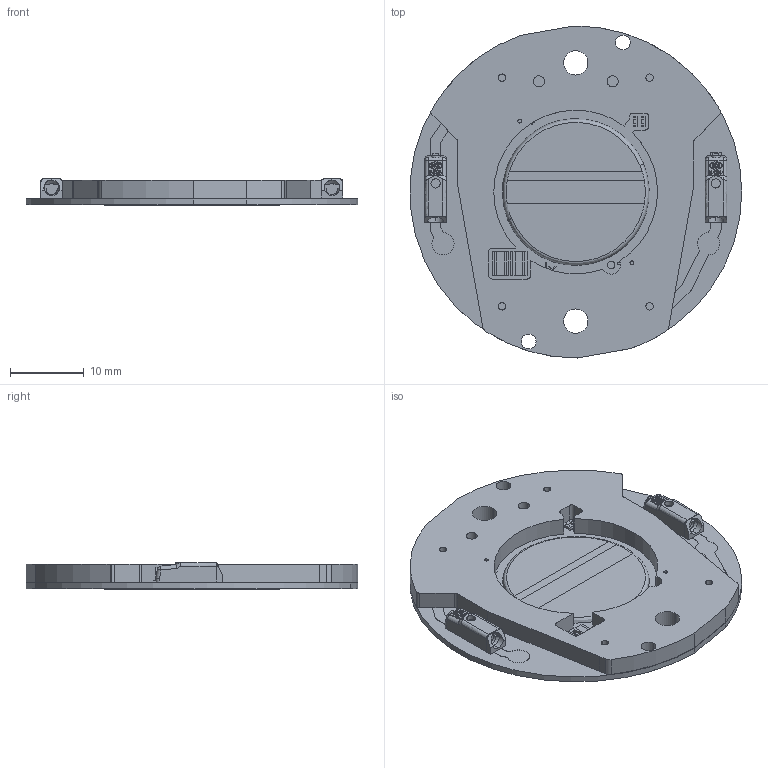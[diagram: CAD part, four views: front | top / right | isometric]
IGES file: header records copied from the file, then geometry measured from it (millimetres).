
Start section: SolidWorks IGES file using analytic representation for surfaces
Global section: file name: C:\Users\jiaqichen\Desktop\DW TW Holder-CoB\New folder\DW 18 Holder-CoB Assembly.IGS; native system: SolidWorks 2020; preprocessor: SolidWorks 2020; author: jiaqichen; date: 200814.174829; units: millimetre
Bounding box: 44.94 x 45 x 3.66 mm (x, y, z)
Surface area: 6040.2 mm2 (no closed solid volume)
Topology: 0 solids, 2 shells, 939 faces, 2536 edges, 1660 vertices
Faces by surface type: plane 595, revolution 314, bspline 30
